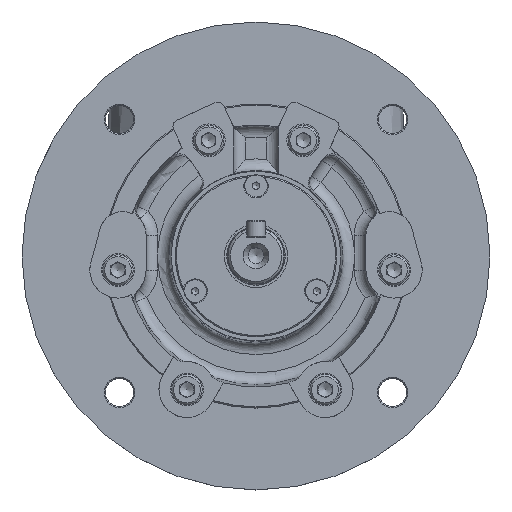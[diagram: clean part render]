
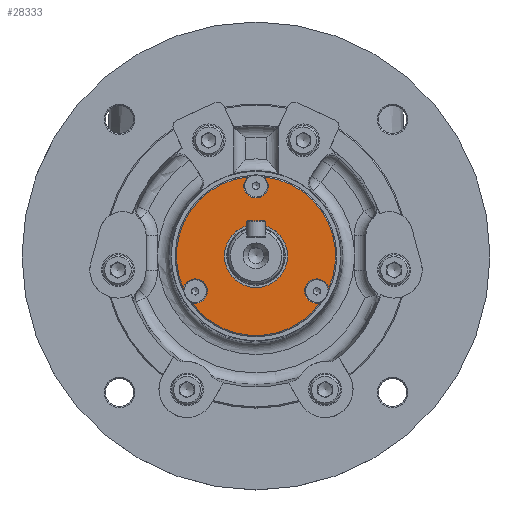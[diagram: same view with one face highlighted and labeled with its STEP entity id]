
A CAD part, top view. The second image highlights one B-rep face of the part: STEP entity #28333.
In plain terms, the highlighted planar face has unit normal (0, 0, 1).
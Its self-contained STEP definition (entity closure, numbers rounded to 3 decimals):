
#22 = DIRECTION ( 'NONE',  ( 0., 0., 1. ) ) ;
#33 = EDGE_LOOP ( 'NONE', ( #17491, #12131, #22909, #9412, #3941, #1308 ) ) ;
#397 = AXIS2_PLACEMENT_3D ( 'NONE', #20850, #18665, #14012 ) ;
#1154 = AXIS2_PLACEMENT_3D ( 'NONE', #17603, #2168, #15405 ) ;
#1237 = CIRCLE ( 'NONE', #4953, 34. ) ;
#1308 = ORIENTED_EDGE ( 'NONE', *, *, #4051, .F. ) ;
#1788 = CARTESIAN_POINT ( 'NONE',  ( 25.981, -9., 83.65 ) ) ;
#2168 = DIRECTION ( 'NONE',  ( 0., 0., 1. ) ) ;
#2887 = DIRECTION ( 'NONE',  ( -1., 0., 0. ) ) ;
#2901 = CARTESIAN_POINT ( 'NONE',  ( 0., 19.5, 83.65 ) ) ;
#3390 = DIRECTION ( 'NONE',  ( 0., 0., -1. ) ) ;
#3941 = ORIENTED_EDGE ( 'NONE', *, *, #23139, .F. ) ;
#4051 = EDGE_CURVE ( 'NONE', #12910, #7748, #6762, .T. ) ;
#4077 = DIRECTION ( 'NONE',  ( 0., 0., -1. ) ) ;
#4953 = AXIS2_PLACEMENT_3D ( 'NONE', #19813, #4077, #6842 ) ;
#5981 = AXIS2_PLACEMENT_3D ( 'NONE', #24920, #22856, #2887 ) ;
#6762 = CIRCLE ( 'NONE', #28786, 5.2 ) ;
#6842 = DIRECTION ( 'NONE',  ( -1., 0., 0. ) ) ;
#7748 = VERTEX_POINT ( 'NONE', #24565 ) ;
#7927 = CARTESIAN_POINT ( 'NONE',  ( -3.532, 39.816, 83.65 ) ) ;
#8428 = ORIENTED_EDGE ( 'NONE', *, *, #23561, .F. ) ;
#8520 = EDGE_CURVE ( 'NONE', #9164, #19148, #1237, .T. ) ;
#9164 = VERTEX_POINT ( 'NONE', #25701 ) ;
#9225 = CIRCLE ( 'NONE', #5981, 34. ) ;
#9412 = ORIENTED_EDGE ( 'NONE', *, *, #27732, .F. ) ;
#10189 = CIRCLE ( 'NONE', #397, 13.5 ) ;
#10260 = DIRECTION ( 'NONE',  ( -1., 0., 0. ) ) ;
#11410 = VERTEX_POINT ( 'NONE', #20289 ) ;
#11431 = CARTESIAN_POINT ( 'NONE',  ( 31.052, -7.849, 83.65 ) ) ;
#12131 = ORIENTED_EDGE ( 'NONE', *, *, #13946, .F. ) ;
#12910 = VERTEX_POINT ( 'NONE', #7927 ) ;
#13185 = EDGE_CURVE ( 'NONE', #16590, #12910, #19739, .T. ) ;
#13705 = FACE_OUTER_BOUND ( 'NONE', #33, .T. ) ;
#13946 = EDGE_CURVE ( 'NONE', #19148, #16590, #16069, .T. ) ;
#14012 = DIRECTION ( 'NONE',  ( 1., 0., 0. ) ) ;
#15405 = DIRECTION ( 'NONE',  ( 1., 0., 0. ) ) ;
#15793 = AXIS2_PLACEMENT_3D ( 'NONE', #1788, #22, #17932 ) ;
#16031 = PLANE ( 'NONE',  #22143 ) ;
#16069 = CIRCLE ( 'NONE', #1154, 5.2 ) ;
#16238 = DIRECTION ( 'NONE',  ( 1., 0., 0. ) ) ;
#16521 = CARTESIAN_POINT ( 'NONE',  ( 0., 6., 83.65 ) ) ;
#16590 = VERTEX_POINT ( 'NONE', #21674 ) ;
#17491 = ORIENTED_EDGE ( 'NONE', *, *, #13185, .F. ) ;
#17603 = CARTESIAN_POINT ( 'NONE',  ( -25.981, -9., 83.65 ) ) ;
#17932 = DIRECTION ( 'NONE',  ( 1., 0., 0. ) ) ;
#18559 = DIRECTION ( 'NONE',  ( 0., 0., 1. ) ) ;
#18665 = DIRECTION ( 'NONE',  ( 0., 0., 1. ) ) ;
#19148 = VERTEX_POINT ( 'NONE', #19970 ) ;
#19739 = CIRCLE ( 'NONE', #28140, 34. ) ;
#19813 = CARTESIAN_POINT ( 'NONE',  ( 0., 6., 83.65 ) ) ;
#19970 = CARTESIAN_POINT ( 'NONE',  ( -27.519, -13.967, 83.65 ) ) ;
#20289 = CARTESIAN_POINT ( 'NONE',  ( 13.5, 6., 83.65 ) ) ;
#20850 = CARTESIAN_POINT ( 'NONE',  ( 0., 6., 83.65 ) ) ;
#21674 = CARTESIAN_POINT ( 'NONE',  ( -31.052, -7.849, 83.65 ) ) ;
#22143 = AXIS2_PLACEMENT_3D ( 'NONE', #2901, #24519, #22588 ) ;
#22321 = FACE_BOUND ( 'NONE', #24752, .T. ) ;
#22588 = DIRECTION ( 'NONE',  ( -1., 0., 0. ) ) ;
#22856 = DIRECTION ( 'NONE',  ( 0., 0., -1. ) ) ;
#22909 = ORIENTED_EDGE ( 'NONE', *, *, #8520, .F. ) ;
#23139 = EDGE_CURVE ( 'NONE', #7748, #24326, #9225, .T. ) ;
#23561 = EDGE_CURVE ( 'NONE', #11410, #11410, #10189, .T. ) ;
#24326 = VERTEX_POINT ( 'NONE', #11431 ) ;
#24519 = DIRECTION ( 'NONE',  ( 0., 0., -1. ) ) ;
#24565 = CARTESIAN_POINT ( 'NONE',  ( 3.532, 39.816, 83.65 ) ) ;
#24574 = CARTESIAN_POINT ( 'NONE',  ( 0., 36., 83.65 ) ) ;
#24752 = EDGE_LOOP ( 'NONE', ( #8428 ) ) ;
#24920 = CARTESIAN_POINT ( 'NONE',  ( 0., 6., 83.65 ) ) ;
#25701 = CARTESIAN_POINT ( 'NONE',  ( 27.519, -13.967, 83.65 ) ) ;
#27732 = EDGE_CURVE ( 'NONE', #24326, #9164, #28366, .T. ) ;
#28140 = AXIS2_PLACEMENT_3D ( 'NONE', #16521, #3390, #10260 ) ;
#28333 = ADVANCED_FACE ( 'NONE', ( #13705, #22321 ), #16031, .F. ) ;
#28366 = CIRCLE ( 'NONE', #15793, 5.2 ) ;
#28786 = AXIS2_PLACEMENT_3D ( 'NONE', #24574, #18559, #16238 ) ;
